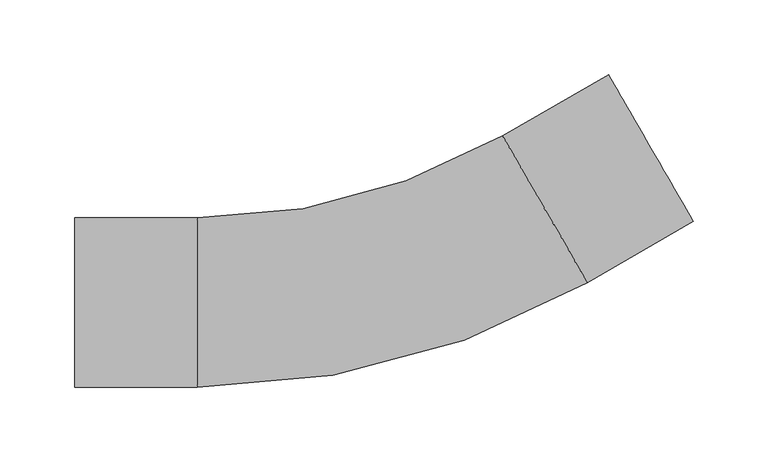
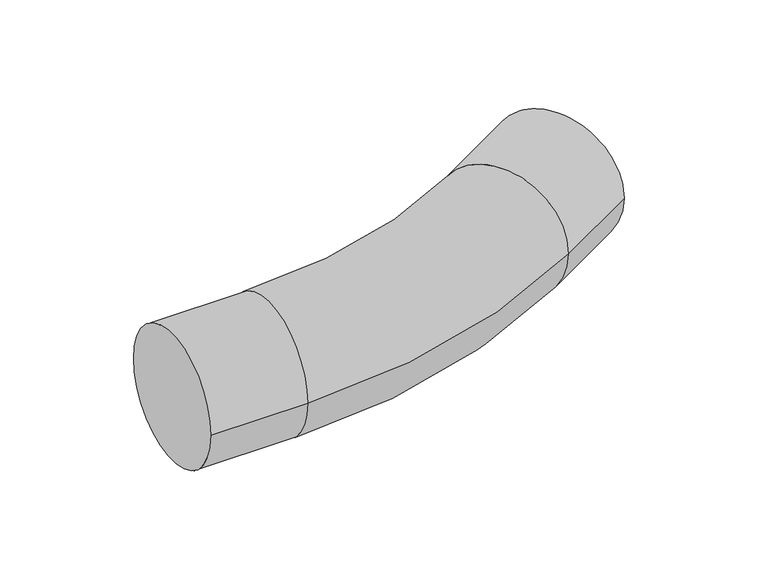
"""IFC4 building model written with IfcOpenShell, lengths in millimetres: cable carrier fitting geometry, M_電線管エルボ - プレーン エンド - PVC : 標準."""

from ifc_helpers import new_model, si_unit, point, frame, origin, place, context, project, spatial, circle_curve, ellipse_curve, trimmed, source, transform, mapped, element, save
from ifc_brep_helpers import plane_surface, cylinder_surface, revolved_surface, advanced_brep


def cable_carrier_fitting_9bf16a55(model_context):
    return source(origin(), model_context, "Body", "AdvancedBrep", [
        advanced_brep(
        [(-206.5585753, -56.6710938, 0.0), (-206.5585753, 56.6710937, 0.0), (-124.7406065, -56.6710938, 0.0), (-124.7406065, 56.6710937, 0.0), (79.6929872, 111.4489101, 0.0), (136.364081, 13.2916964, 0.0), (207.2205204, 54.2006808, 0.0), (150.5494267, 152.3578945, 0.0)],
        [
            (0, 1, circle_curve(frame((-206.5585753, 0.0, 0.0), z_axis=(-1.0, 0.0, 0.0), x_axis=(0.0, 1.0, 0.0)), 56.6710938)),
            (1, 0, circle_curve(frame((-206.5585753, 0.0, 0.0), z_axis=(-1.0, 0.0, 0.0), x_axis=(0.0, 1.0, 0.0)), 56.6710938)),
            (0, 2),
            (2, 3, circle_curve(frame((-124.7406065, 0.0, 0.0), z_axis=(-1.0, 0.0, 0.0), x_axis=(0.0, 1.0, 0.0)), 56.6710938)),
            (3, 1),
            (3, 2, circle_curve(frame((-124.7406065, 0.0, 0.0), z_axis=(-1.0, 0.0, 0.0), x_axis=(0.0, 1.0, 0.0)), 56.6710938)),
            (4, 3, circle_curve(frame((-124.7406065, 465.5382812, 0.0), z_axis=(0.0, 0.0, -1.0), x_axis=(0.0, -1.0, 0.0)), 408.8671875)),
            (2, 5, circle_curve(frame((-124.7406065, 465.5382812, 0.0), z_axis=(0.0, 0.0, 1.0), x_axis=(0.0, -1.0, 0.0)), 522.209375)),
            (5, 4, circle_curve(frame((108.0285341, 62.3703033, 0.0), z_axis=(-0.8660254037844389, -0.4999999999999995, 0.0), x_axis=(-0.4999999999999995, 0.8660254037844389, 0.0)), 56.6710938)),
            (4, 5, circle_curve(frame((108.0285341, 62.3703033, 0.0), z_axis=(-0.8660254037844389, -0.4999999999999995, 0.0), x_axis=(-0.4999999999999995, 0.8660254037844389, 0.0)), 56.6710938)),
            (6, 7, circle_curve(frame((178.8849735, 103.2792876, 0.0), z_axis=(0.8660254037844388, 0.49999999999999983, 0.0), x_axis=(-0.49999999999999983, 0.8660254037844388, 0.0)), 56.6710938)),
            (7, 6, circle_curve(frame((178.8849735, 103.2792876, 0.0), z_axis=(0.8660254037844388, 0.49999999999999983, 0.0), x_axis=(-0.49999999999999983, 0.8660254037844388, 0.0)), 56.6710938)),
            (5, 6),
            (7, 4),
        ],
        [
            plane_surface(frame((-206.5585753, 0.0, 0.0), z_axis=(-1.0, 0.0, 0.0), x_axis=(0.0, 0.0, 1.0))),
            cylinder_surface(frame((-206.5585753, 0.0, 0.0), z_axis=(-1.0, 0.0, 0.0), x_axis=(0.0, 1.0, 0.0)), 56.6710938),
            revolved_surface(trimmed(ellipse_curve(frame((-124.7406065, 0.0, 0.0), z_axis=(-1.0, 0.0, 0.0), x_axis=(0.0, 1.0, 0.0)), 56.6710938, 56.6710938), [point((-124.7406065, -56.6710938, 0.0))], [point((-124.7406065, 56.6710937, 0.0))], True, "CARTESIAN"), (-124.7406065, 465.5382812, 0.0), (0.0, 0.0, 1.0)),
            revolved_surface(trimmed(ellipse_curve(frame((-124.7406065, 0.0, 0.0), z_axis=(-1.0, 0.0, 0.0), x_axis=(0.0, 1.0, 0.0)), 56.6710938, 56.6710938), [point((-124.7406065, 56.6710937, 0.0))], [point((-124.7406065, -56.6710938, 0.0))], True, "CARTESIAN"), (-124.7406065, 465.5382812, 0.0), (0.0, 0.0, 1.0)),
            plane_surface(frame((178.8849735, 103.2792876, 0.0), z_axis=(0.8660254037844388, 0.49999999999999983, 0.0), x_axis=(0.0, 0.0, 1.0))),
            cylinder_surface(frame((108.0285341, 62.3703033, 0.0), z_axis=(-0.8660254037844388, -0.49999999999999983, 0.0), x_axis=(-0.49999999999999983, 0.8660254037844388, 0.0)), 56.6710938),
        ],
        [
            (0, [[1, 2]]),
            (1, [[-1, 3, 4, 5]]),
            (1, [[-2, -5, 6, -3]]),
            (2, [[7, -4, 8, 9]]),
            (3, [[-8, -6, -7, 10]]),
            (4, [[11, 12]]),
            (5, [[-9, 13, -12, 14]]),
            (5, [[-10, -14, -11, -13]]),
        ],
    ),
    ])


if __name__ == "__main__":
    model = new_model("IFC4")
    model_context = context("Model", 3, world=origin())
    ifc_project = project(units=[si_unit("LENGTHUNIT", "METRE", prefix="MILLI")], contexts=[model_context])
    site = spatial("IfcSite", under=ifc_project)
    building = spatial("IfcBuilding", under=site)
    placement = place(None, origin())
    cable_carrier_fitting_shape = cable_carrier_fitting_9bf16a55(model_context)
    element("IfcCableCarrierFitting", 1, ObjectType="M_電線管エルボ - プレーン エンド - PVC : 標準", at=placement, inside=building, context=model_context, shape_type="MappedRepresentation", body=[
        mapped(cable_carrier_fitting_shape, transform((0.0, 0.0, 0.0), x_axis=(1.0, 0.0, 0.0), y_axis=(0.0, 1.0, 0.0), z_axis=(0.0, 0.0, 1.0))),
    ])
    save(model, "model.ifc")
